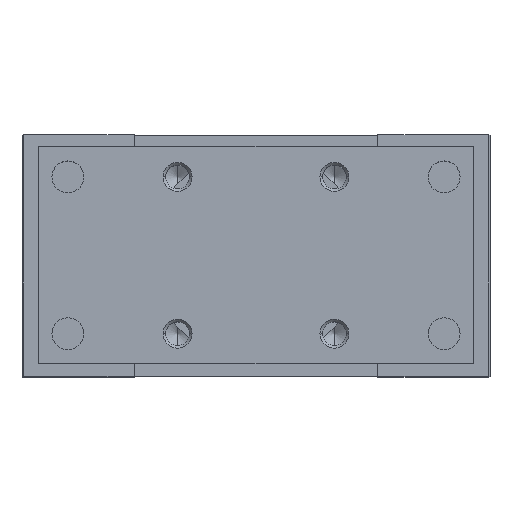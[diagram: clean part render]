
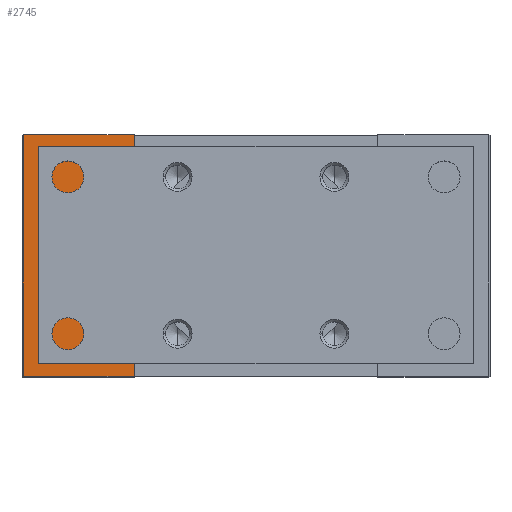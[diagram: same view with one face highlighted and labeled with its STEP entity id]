
A CAD part, top view. The second image highlights one B-rep face of the part: STEP entity #2745.
In plain terms, the highlighted planar face has unit normal (0, 0, 1).
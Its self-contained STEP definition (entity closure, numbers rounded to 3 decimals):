
#138 = VECTOR ( 'NONE', #8647, 1000. ) ;
#145 = CARTESIAN_POINT ( 'NONE',  ( -48.2, 50., 49. ) ) ;
#216 = EDGE_CURVE ( 'NONE', #4132, #4016, #10712, .T. ) ;
#690 = FACE_BOUND ( 'NONE', #9989, .T. ) ;
#756 = VERTEX_POINT ( 'NONE', #8912 ) ;
#1018 = EDGE_LOOP ( 'NONE', ( #10013, #4473, #8617, #11096 ) ) ;
#1144 = DIRECTION ( 'NONE',  ( 0., -1., 0. ) ) ;
#1527 = CARTESIAN_POINT ( 'NONE',  ( -48.5, 25., 49. ) ) ;
#1800 = ORIENTED_EDGE ( 'NONE', *, *, #216, .F. ) ;
#2126 = AXIS2_PLACEMENT_3D ( 'NONE', #1527, #6674, #8309 ) ;
#2332 = DIRECTION ( 'NONE',  ( 0., 0., 1. ) ) ;
#2745 = ADVANCED_FACE ( 'NONE', ( #7571, #690 ), #3957, .F. ) ;
#3117 = CARTESIAN_POINT ( 'NONE',  ( -37., 0., 49. ) ) ;
#3406 = CARTESIAN_POINT ( 'NONE',  ( -31., 0., 49. ) ) ;
#3646 = CARTESIAN_POINT ( 'NONE',  ( -48.2, -25., 49. ) ) ;
#3671 = LINE ( 'NONE', #7796, #138 ) ;
#3707 = DIRECTION ( 'NONE',  ( 1., 0., 0. ) ) ;
#3747 = LINE ( 'NONE', #145, #6972 ) ;
#3754 = VERTEX_POINT ( 'NONE', #5383 ) ;
#3883 = CARTESIAN_POINT ( 'NONE',  ( -48.5, -25., 49. ) ) ;
#3957 = PLANE ( 'NONE',  #2126 ) ;
#4016 = VERTEX_POINT ( 'NONE', #6911 ) ;
#4132 = VERTEX_POINT ( 'NONE', #3406 ) ;
#4141 = VERTEX_POINT ( 'NONE', #6862 ) ;
#4473 = ORIENTED_EDGE ( 'NONE', *, *, #7298, .T. ) ;
#4578 = AXIS2_PLACEMENT_3D ( 'NONE', #3117, #2332, #5782 ) ;
#4705 = LINE ( 'NONE', #6285, #9121 ) ;
#4722 = DIRECTION ( 'NONE',  ( 1., 0., 0. ) ) ;
#4741 = ORIENTED_EDGE ( 'NONE', *, *, #5756, .F. ) ;
#5126 = CIRCLE ( 'NONE', #9450, 6. ) ;
#5383 = CARTESIAN_POINT ( 'NONE',  ( -48.2, 25., 49. ) ) ;
#5756 = EDGE_CURVE ( 'NONE', #4016, #4132, #5126, .T. ) ;
#5782 = DIRECTION ( 'NONE',  ( 1., 0., 0. ) ) ;
#6285 = CARTESIAN_POINT ( 'NONE',  ( -48.5, 25., 49. ) ) ;
#6354 = DIRECTION ( 'NONE',  ( 0., 0., 1. ) ) ;
#6674 = DIRECTION ( 'NONE',  ( 0., 0., -1. ) ) ;
#6862 = CARTESIAN_POINT ( 'NONE',  ( -25.25, -25., 49. ) ) ;
#6911 = CARTESIAN_POINT ( 'NONE',  ( -43., 0., 49. ) ) ;
#6972 = VECTOR ( 'NONE', #1144, 1000. ) ;
#7213 = CARTESIAN_POINT ( 'NONE',  ( -37., 0., 49. ) ) ;
#7298 = EDGE_CURVE ( 'NONE', #3754, #9548, #3747, .T. ) ;
#7344 = EDGE_CURVE ( 'NONE', #3754, #756, #4705, .T. ) ;
#7571 = FACE_OUTER_BOUND ( 'NONE', #1018, .T. ) ;
#7796 = CARTESIAN_POINT ( 'NONE',  ( -25.25, 25., 49. ) ) ;
#7930 = DIRECTION ( 'NONE',  ( 1., 0., 0. ) ) ;
#8309 = DIRECTION ( 'NONE',  ( 0., -1., 0. ) ) ;
#8617 = ORIENTED_EDGE ( 'NONE', *, *, #9111, .T. ) ;
#8647 = DIRECTION ( 'NONE',  ( 0., -1., 0. ) ) ;
#8912 = CARTESIAN_POINT ( 'NONE',  ( -25.25, 25., 49. ) ) ;
#9111 = EDGE_CURVE ( 'NONE', #9548, #4141, #10822, .T. ) ;
#9121 = VECTOR ( 'NONE', #7930, 1000. ) ;
#9184 = VECTOR ( 'NONE', #4722, 1000. ) ;
#9450 = AXIS2_PLACEMENT_3D ( 'NONE', #7213, #6354, #3707 ) ;
#9548 = VERTEX_POINT ( 'NONE', #3646 ) ;
#9731 = EDGE_CURVE ( 'NONE', #756, #4141, #3671, .T. ) ;
#9989 = EDGE_LOOP ( 'NONE', ( #4741, #1800 ) ) ;
#10013 = ORIENTED_EDGE ( 'NONE', *, *, #7344, .F. ) ;
#10712 = CIRCLE ( 'NONE', #4578, 6. ) ;
#10822 = LINE ( 'NONE', #3883, #9184 ) ;
#11096 = ORIENTED_EDGE ( 'NONE', *, *, #9731, .F. ) ;
